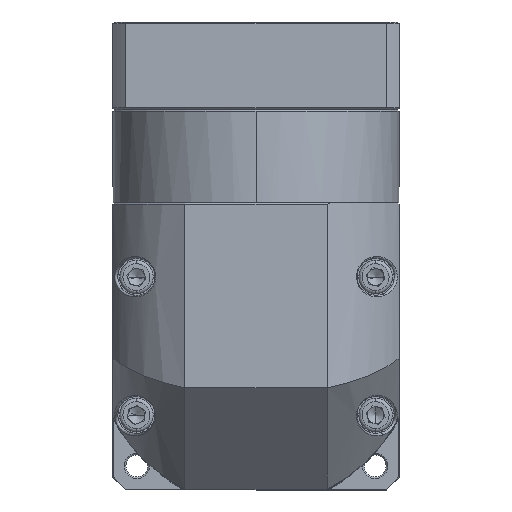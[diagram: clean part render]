
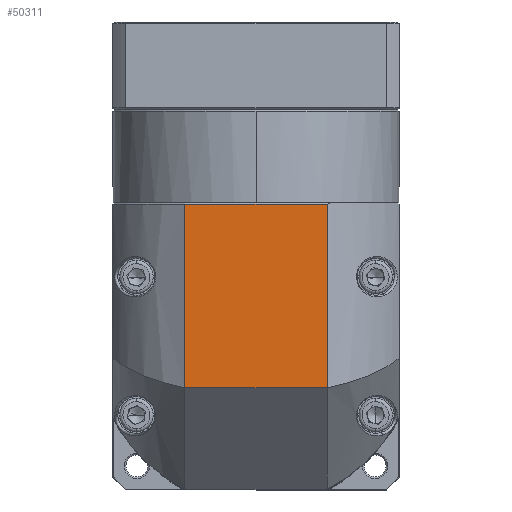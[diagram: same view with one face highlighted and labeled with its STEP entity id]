
A CAD part, top view. The second image highlights one B-rep face of the part: STEP entity #50311.
In plain terms, the highlighted planar face has unit normal (0, 0, 1).
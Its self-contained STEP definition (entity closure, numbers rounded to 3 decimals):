
#36 = DIRECTION ( 'NONE',  ( 0., 0., 1. ) ) ;
#2259 = DIRECTION ( 'NONE',  ( 0., -1., 0. ) ) ;
#11021 = EDGE_LOOP ( 'NONE', ( #125295, #75761, #11068, #68879 ) ) ;
#11068 = ORIENTED_EDGE ( 'NONE', *, *, #78166, .F. ) ;
#14183 = CARTESIAN_POINT ( 'NONE',  ( -35.03, -2.521, 63.278 ) ) ;
#15504 = AXIS2_PLACEMENT_3D ( 'NONE', #76139, #36, #75680 ) ;
#18986 = CARTESIAN_POINT ( 'NONE',  ( -77.457, -2.521, 63.278 ) ) ;
#19157 = CARTESIAN_POINT ( 'NONE',  ( -56.244, -2.521, 63.278 ) ) ;
#22172 = VECTOR ( 'NONE', #63225, 1000. ) ;
#23136 = VERTEX_POINT ( 'NONE', #18986 ) ;
#25325 = CARTESIAN_POINT ( 'NONE',  ( -35.03, -48.021, 63.278 ) ) ;
#26450 = VECTOR ( 'NONE', #90170, 1000. ) ;
#32445 = PLANE ( 'NONE',  #15504 ) ;
#36548 = CARTESIAN_POINT ( 'NONE',  ( -77.457, -48.021, 63.278 ) ) ;
#47582 = EDGE_CURVE ( 'NONE', #23136, #68075, #102126, .T. ) ;
#50311 = ADVANCED_FACE ( 'NONE', ( #53657 ), #32445, .T. ) ;
#51253 = VERTEX_POINT ( 'NONE', #14183 ) ;
#53657 = FACE_OUTER_BOUND ( 'NONE', #11021, .T. ) ;
#53816 = CARTESIAN_POINT ( 'NONE',  ( -77.457, 51.979, 63.278 ) ) ;
#63225 = DIRECTION ( 'NONE',  ( -1., 0., 0. ) ) ;
#67692 = CARTESIAN_POINT ( 'NONE',  ( -35.03, 51.979, 63.278 ) ) ;
#68075 = VERTEX_POINT ( 'NONE', #53816 ) ;
#68879 = ORIENTED_EDGE ( 'NONE', *, *, #98677, .T. ) ;
#73112 = DIRECTION ( 'NONE',  ( -1., 0., 0. ) ) ;
#73557 = CARTESIAN_POINT ( 'NONE',  ( -56.244, 51.979, 63.278 ) ) ;
#73910 = EDGE_CURVE ( 'NONE', #51253, #23136, #94565, .T. ) ;
#75680 = DIRECTION ( 'NONE',  ( 0., 1., 0. ) ) ;
#75761 = ORIENTED_EDGE ( 'NONE', *, *, #73910, .F. ) ;
#76139 = CARTESIAN_POINT ( 'NONE',  ( -56.244, 9.979, 63.278 ) ) ;
#78166 = EDGE_CURVE ( 'NONE', #137477, #51253, #86701, .T. ) ;
#81689 = VECTOR ( 'NONE', #2259, 1000. ) ;
#86701 = LINE ( 'NONE', #25325, #81689 ) ;
#90170 = DIRECTION ( 'NONE',  ( 0., 1., 0. ) ) ;
#94430 = LINE ( 'NONE', #73557, #22172 ) ;
#94565 = LINE ( 'NONE', #19157, #113043 ) ;
#98677 = EDGE_CURVE ( 'NONE', #137477, #68075, #94430, .T. ) ;
#102126 = LINE ( 'NONE', #36548, #26450 ) ;
#113043 = VECTOR ( 'NONE', #73112, 1000. ) ;
#125295 = ORIENTED_EDGE ( 'NONE', *, *, #47582, .F. ) ;
#137477 = VERTEX_POINT ( 'NONE', #67692 ) ;
